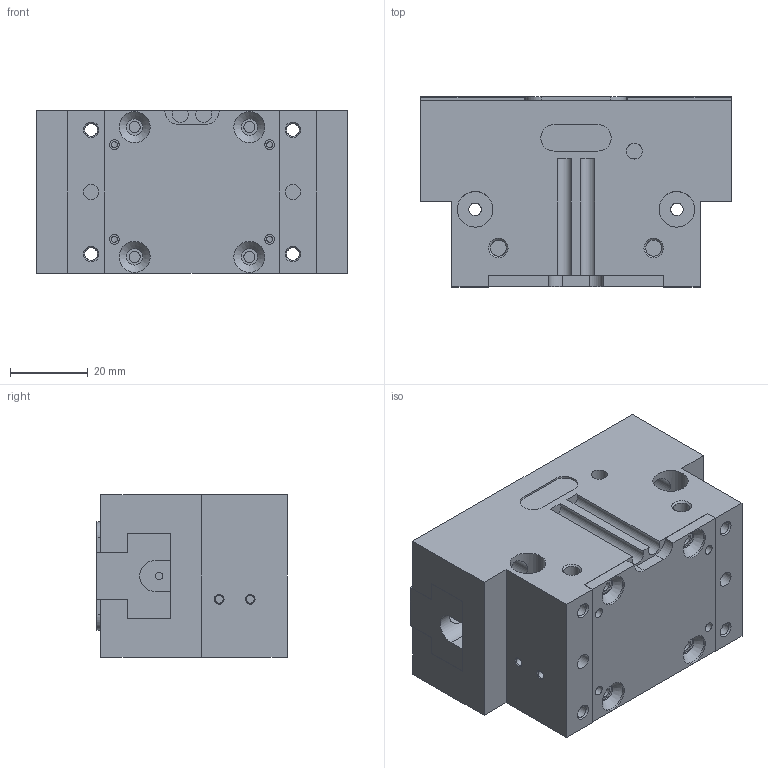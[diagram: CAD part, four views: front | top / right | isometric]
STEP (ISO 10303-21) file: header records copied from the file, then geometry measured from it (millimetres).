
FILE_DESCRIPTION( ( 'STEP AP214' ), '1' );
FILE_NAME( 'C:/Users/ashearer/Desktop/Mindman New CAD/Grippers/MCHS-SD-80_0_.stp', ' ', ( ' ' ), ( ' ' ), 'PSStep 15.0.47', 'PARTsolutions', ' ' );
FILE_SCHEMA( ( 'AUTOMOTIVE_DESIGN { 1 0 10303 214 1 1 1 1 }' ) );
Length unit declared in the file: millimetre
Products named in the file (4): MCHS-SD-80(0); _MCHS-SD-80(dummy_0); _MCHS-SD-80_body; _MCHS-SD-80_finger
Assembly tree (4 placements, depth 2):
  MCHS-SD-80(0)
    _MCHS-SD-80(dummy_0)
    _MCHS-SD-80_body
    _MCHS-SD-80_finger  x2
Bounding box: 80 x 49 x 42 mm (x, y, z)
Volume: 130055.3 mm3; surface area: 39103.7 mm2
Topology: 3 solids, 3 shells, 320 faces, 775 edges, 502 vertices
Faces by surface type: plane 192, cylinder 88, cone 40
Full cylindrical faces by diameter (mm): 1.567 x4, 2.013 x10, 2.5 x8, 2.85 x4, 3.242 x8, 4 x4, 4.134 x6, 4.2 x4, 4.917 x4, 6.5 x6, 8 x8, 9.2 x2
Entity records: 9546 total; most frequent: CARTESIAN_POINT 1815, DIRECTION 1172, ORIENTED_EDGE 974, EDGE_CURVE 487, AXIS2_PLACEMENT_3D 443, EDGE_LOOP 438, VERTEX_POINT 373, FACE_OUTER_BOUND 317
